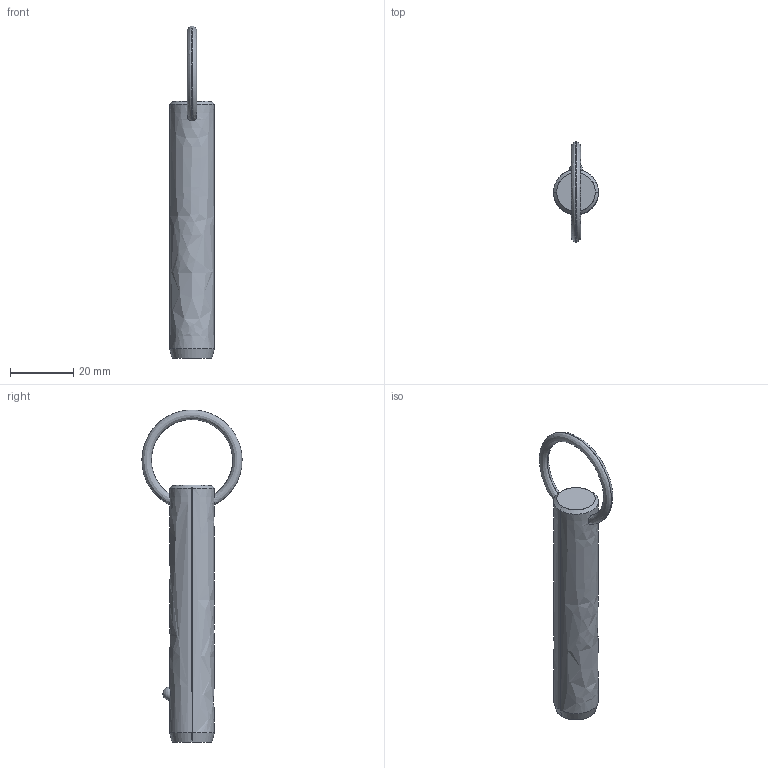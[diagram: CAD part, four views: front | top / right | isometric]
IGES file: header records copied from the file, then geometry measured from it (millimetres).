
Start section: SolidWorks IGES file using analytic representation for surfaces
Global section: file name: C:\Users\liam_\OneDrive\Documents\WORK\Work for WixRoyd\Job Files\J-00019 - Matt Davis CAD Checking\04. CAD Drawings\automotion20190605\P1250.2_v2\P1250.2_v2_20190729_IGES\P1250.056-220.igs; native system: SolidWorks 2017; preprocessor: SolidWorks 2017; author: liam_; date: 190729.231747; units: millimetre
Bounding box: 14.2 x 31.7 x 105 mm (x, y, z)
Surface area: 4588.2 mm2 (no closed solid volume)
Topology: 0 solids, 0 shells, 12 faces, 285 edges, 283 vertices
Faces by surface type: revolution 8, bspline 4
